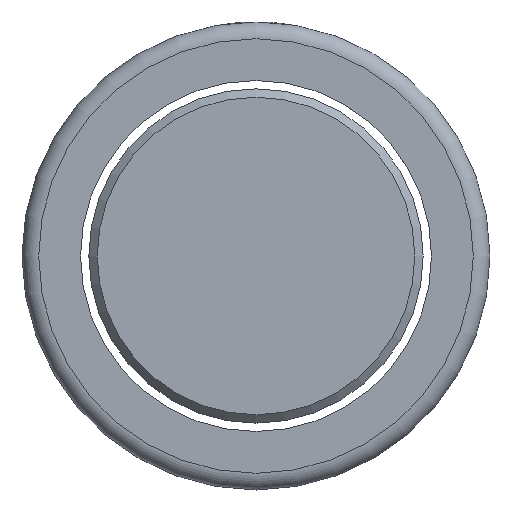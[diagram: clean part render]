
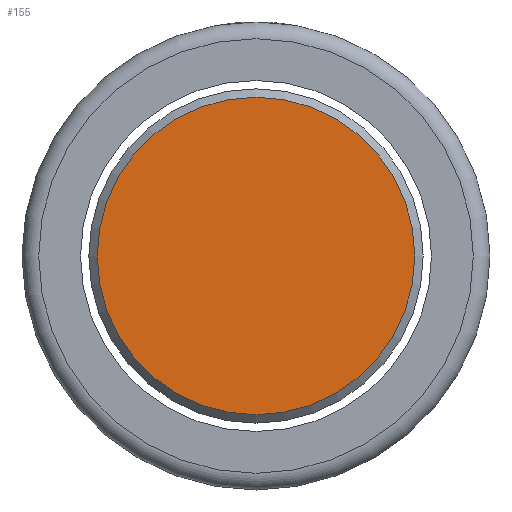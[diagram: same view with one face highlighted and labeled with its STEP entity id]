
A CAD part, left-side view. The second image highlights one B-rep face of the part: STEP entity #155.
In plain terms, the highlighted planar face has unit normal (-1, 0, 0).
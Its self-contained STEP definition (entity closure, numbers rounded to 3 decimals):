
#155=ADVANCED_FACE('',(#181),#174,.T.);
#174=PLANE('',#343);
#181=FACE_OUTER_BOUND('',#192,.T.);
#192=EDGE_LOOP('',(#226));
#226=ORIENTED_EDGE('',*,*,#300,.T.);
#278=VERTEX_POINT('',#454);
#300=EDGE_CURVE('',#278,#278,#326,.T.);
#326=CIRCLE('',#342,19.);
#342=AXIS2_PLACEMENT_3D('',#453,#379,#380);
#343=AXIS2_PLACEMENT_3D('',#455,#381,#382);
#379=DIRECTION('',(-1.,0.,0.));
#380=DIRECTION('',(0.,-1.,0.));
#381=DIRECTION('',(-1.,0.,0.));
#382=DIRECTION('',(0.,-1.,0.));
#453=CARTESIAN_POINT('',(-100.,0.,0.));
#454=CARTESIAN_POINT('',(-100.,-19.,0.));
#455=CARTESIAN_POINT('',(-100.,10.,0.));
